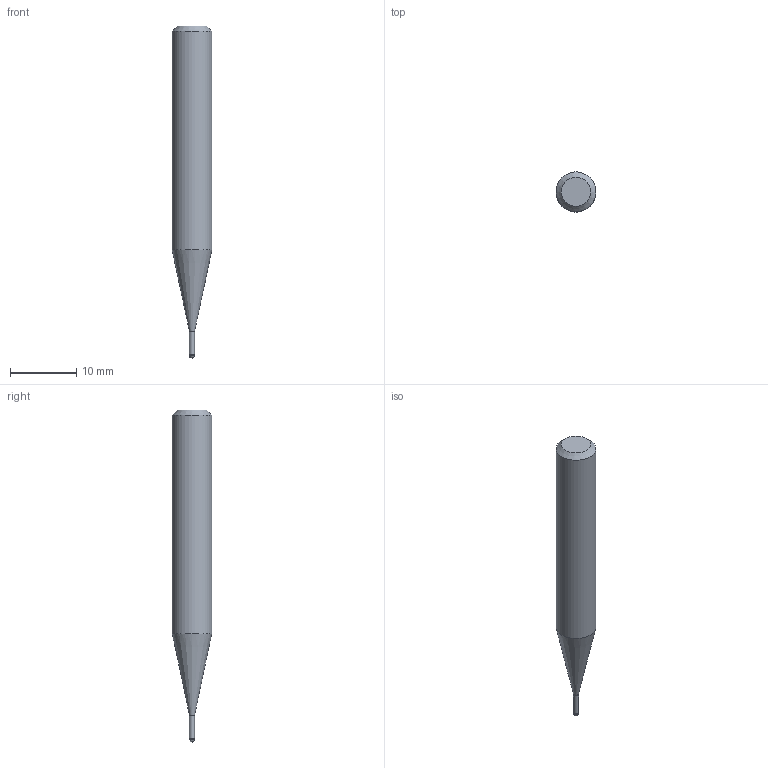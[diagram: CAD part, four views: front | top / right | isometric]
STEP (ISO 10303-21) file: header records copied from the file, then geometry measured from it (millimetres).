
FILE_DESCRIPTION((''),'2;1');
FILE_NAME('C:\Users\nsx150\AppData\Local\Temp\Mastercam 2021\3SYKECWX22\TEMP.step','2021-04-22T10:01:35',(''),(''),'STEP Write','Mastercam 2021 ... CNC Software, Inc.','');
FILE_SCHEMA(('AUTOMOTIVE_DESIGN'));
Length unit declared in the file: millimetre
Products named in the file (1): None
Bounding box: 6 x 6 x 50 mm (x, y, z)
Volume: 1081.1 mm3; surface area: 797.7 mm2
Topology: 2 solids, 2 shells, 9 faces, 14 edges, 8 vertices
Faces by surface type: plane 3, cylinder 3, cone 2, sphere 1
Full cylindrical faces by diameter (mm): 0.76 x1, 0.8 x1, 6 x1
Entity records: 211 total; most frequent: DIRECTION 36, CARTESIAN_POINT 25, AXIS2_PLACEMENT_3D 18, ORIENTED_EDGE 14, EDGE_LOOP 14, STYLED_ITEM 12, ADVANCED_FACE 9, FACE_BOUND 8
